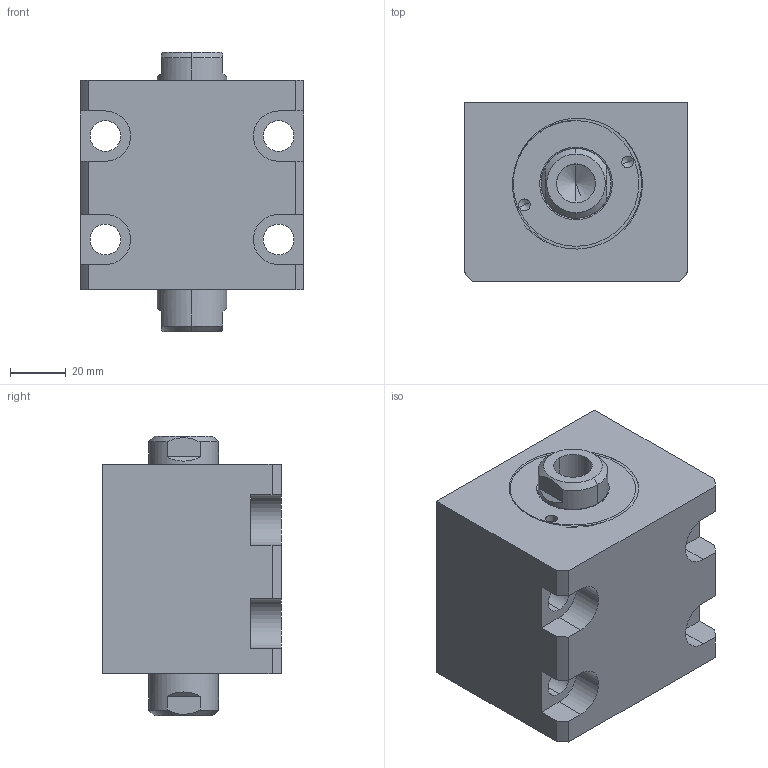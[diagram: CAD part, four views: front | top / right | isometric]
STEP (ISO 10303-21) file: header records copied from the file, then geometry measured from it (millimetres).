
FILE_DESCRIPTION (( 'STEP AP214' ), '1' );
FILE_NAME ('chtb-lwm40x5n_asm.STEP', '2018-05-30T07:56:37', ( 'Windows' ), ( 'Microsoft' ), 'SwSTEP 2.0', 'SolidWorks 2015', '' );
FILE_SCHEMA (( 'AUTOMOTIVE_DESIGN' ));
Length unit declared in the file: millimetre
Products named in the file (4): CHTB-SD40QG; CHTB-SW40X5NHSG; CHTB-LWM40X5NBT; chtb-lwm40x5n_asm
Assembly tree (3 placements, depth 2):
  chtb-lwm40x5n_asm
    CHTB-LWM40X5NBT
    CHTB-SW40X5NHSG
    CHTB-SD40QG
Bounding box: 80 x 64 x 100 mm (x, y, z)
Volume: 348528.7 mm3; surface area: 71181.6 mm2
Topology: 3 solids, 3 shells, 155 faces, 423 edges, 278 vertices
Faces by surface type: cylinder 74, plane 42, bspline 14, cone 13, torus 12
Entity records: 10121 total; most frequent: CARTESIAN_POINT 6099, ORIENTED_EDGE 826, DIRECTION 764, EDGE_CURVE 413, AXIS2_PLACEMENT_3D 308, VERTEX_POINT 278, EDGE_LOOP 185, CIRCLE 161
